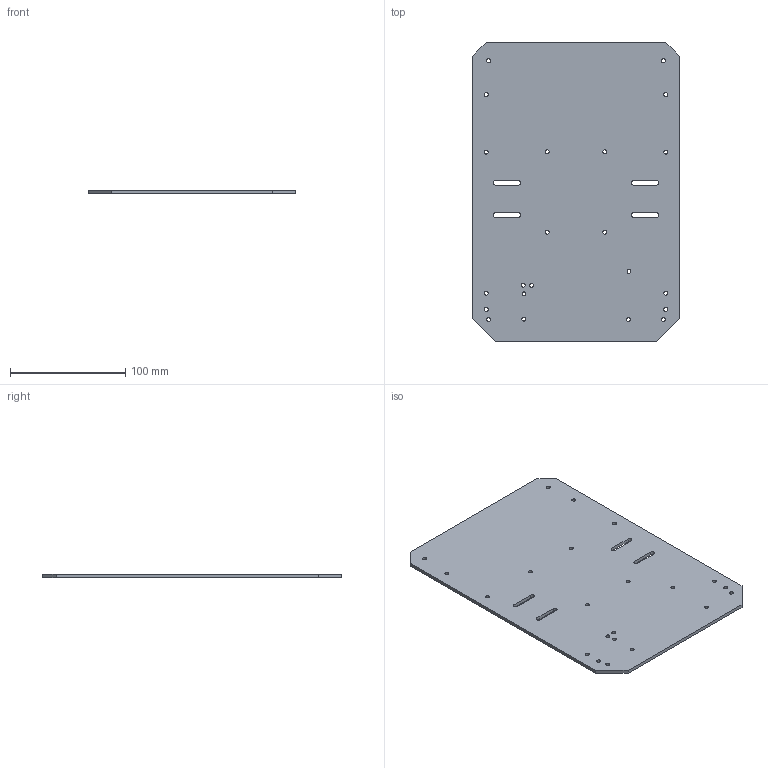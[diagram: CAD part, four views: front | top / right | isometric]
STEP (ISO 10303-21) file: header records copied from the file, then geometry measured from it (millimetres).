
FILE_DESCRIPTION(('FreeCAD Model'),'2;1');
FILE_NAME('Open CASCADE Shape Model','2026-10-12T22:45:25',('FreeCAD'),( 'FreeCAD'),'Open CASCADE STEP processor 7.8','FreeCAD','Unknown');
FILE_SCHEMA(('AUTOMOTIVE_DESIGN { 1 0 10303 214 1 1 1 1 }'));
Length unit declared in the file: millimetre
Products named in the file (1): Open CASCADE STEP translator 7.8 3
Bounding box: 180 x 260 x 3 mm (x, y, z)
Volume: 137058 mm3; surface area: 95235.3 mm2
Topology: 1 solids, 1 shells, 48 faces, 138 edges, 92 vertices
Faces by surface type: cylinder 30, plane 18
Full cylindrical faces by diameter (mm): 3.4 x22
Entity records: 1716 total; most frequent: DIRECTION 296, CARTESIAN_POINT 279, ORIENTED_EDGE 276, EDGE_CURVE 138, AXIS2_PLACEMENT_3D 109, FACE_BOUND 100, EDGE_LOOP 100, VERTEX_POINT 92
